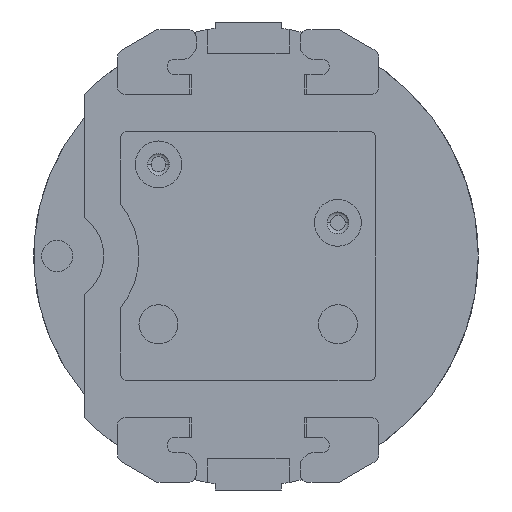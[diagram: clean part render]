
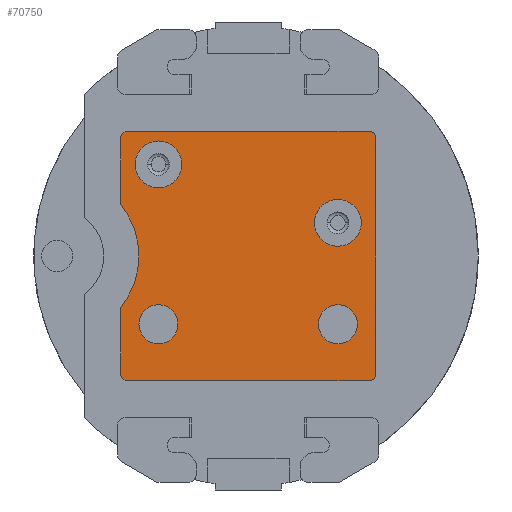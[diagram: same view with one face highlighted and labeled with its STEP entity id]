
A CAD part, front view. The second image highlights one B-rep face of the part: STEP entity #70750.
In plain terms, the highlighted planar face has unit normal (0, -1, 0).
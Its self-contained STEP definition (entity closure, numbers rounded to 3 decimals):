
#27410=CARTESIAN_POINT('',(-2.3,0.08,1.75));
#27420=VERTEX_POINT('',#27410);
#27500=CARTESIAN_POINT('',(-2.3,0.08,2.95));
#27510=VERTEX_POINT('',#27500);
#27540=CARTESIAN_POINT('',(-2.3,0.08,2.35));
#27550=DIRECTION('',(0.,1.,0.));
#27560=DIRECTION('',(0.,0.,1.));
#27570=AXIS2_PLACEMENT_3D('',#27540,#27550,#27560);
#27580=CIRCLE('',#27570,0.6);
#27590=EDGE_CURVE('',#27510,#27420,#27580,.T.);
#29220=CARTESIAN_POINT('',(2.3,0.08,-1.25));
#29230=VERTEX_POINT('',#29220);
#29260=CARTESIAN_POINT('',(2.3,0.08,-1.75));
#29270=DIRECTION('',(0.,1.,0.));
#29280=DIRECTION('',(0.,0.,-1.));
#29290=AXIS2_PLACEMENT_3D('',#29260,#29270,#29280);
#29300=CIRCLE('',#29290,0.5);
#29310=CARTESIAN_POINT('',(2.3,0.08,-2.25));
#29320=VERTEX_POINT('',#29310);
#29330=EDGE_CURVE('',#29230,#29320,#29300,.T.);
#30450=CARTESIAN_POINT('',(-3.27,0.08,-3.03));
#30460=VERTEX_POINT('',#30450);
#30490=CARTESIAN_POINT('',(-3.1,0.08,-3.03));
#30500=DIRECTION('',(-0.,-1.,-0.));
#30510=DIRECTION('',(-1.,0.,0.));
#30520=AXIS2_PLACEMENT_3D('',#30490,#30500,#30510);
#30530=CIRCLE('',#30520,0.17);
#30540=CARTESIAN_POINT('',(-3.1,0.08,-3.2));
#30550=VERTEX_POINT('',#30540);
#30560=EDGE_CURVE('',#30460,#30550,#30530,.T.);
#31970=CARTESIAN_POINT('',(2.3,0.08,1.45));
#31980=VERTEX_POINT('',#31970);
#32060=CARTESIAN_POINT('',(2.3,0.08,0.25));
#32070=VERTEX_POINT('',#32060);
#32100=CARTESIAN_POINT('',(2.3,0.08,0.85));
#32110=DIRECTION('',(0.,1.,0.));
#32120=DIRECTION('',(0.,0.,1.));
#32130=AXIS2_PLACEMENT_3D('',#32100,#32110,#32120);
#32140=CIRCLE('',#32130,0.6);
#32150=EDGE_CURVE('',#32070,#31980,#32140,.T.);
#36290=CARTESIAN_POINT('',(-2.3,0.08,-2.25));
#36300=VERTEX_POINT('',#36290);
#36330=CARTESIAN_POINT('',(-2.3,0.08,-1.75));
#36340=DIRECTION('',(0.,1.,0.));
#36350=DIRECTION('',(0.,0.,-1.));
#36360=AXIS2_PLACEMENT_3D('',#36330,#36340,#36350);
#36370=CIRCLE('',#36360,0.5);
#36380=CARTESIAN_POINT('',(-2.3,0.08,-1.25));
#36390=VERTEX_POINT('',#36380);
#36400=EDGE_CURVE('',#36300,#36390,#36370,.T.);
#67670=CARTESIAN_POINT('',(-3.27,0.08,-3.03));
#67680=DIRECTION('',(0.,0.,1.));
#67690=VECTOR('',#67680,1.);
#67700=LINE('',#67670,#67690);
#67710=CARTESIAN_POINT('',(-3.27,0.08,-1.324));
#67720=VERTEX_POINT('',#67710);
#67730=EDGE_CURVE('',#30460,#67720,#67700,.T.);
#68020=CARTESIAN_POINT('',(-3.27,0.08,1.324));
#68030=VERTEX_POINT('',#68020);
#68060=CARTESIAN_POINT('',(-4.9,0.08,0.));
#68070=DIRECTION('',(-0.,1.,0.));
#68080=DIRECTION('',(0.776,0.,0.63));
#68090=AXIS2_PLACEMENT_3D('',#68060,#68070,#68080);
#68100=CIRCLE('',#68090,2.1);
#68110=EDGE_CURVE('',#68030,#67720,#68100,.T.);
#68350=CARTESIAN_POINT('',(-3.27,0.08,3.03));
#68360=VERTEX_POINT('',#68350);
#68390=CARTESIAN_POINT('',(-3.27,0.08,1.324));
#68400=DIRECTION('',(0.,0.,1.));
#68410=VECTOR('',#68400,1.);
#68420=LINE('',#68390,#68410);
#68430=EDGE_CURVE('',#68030,#68360,#68420,.T.);
#68650=CARTESIAN_POINT('',(-3.1,0.08,3.2));
#68660=VERTEX_POINT('',#68650);
#68690=CARTESIAN_POINT('',(-3.1,0.08,3.03));
#68700=DIRECTION('',(-0.,-1.,0.));
#68710=DIRECTION('',(0.,0.,1.));
#68720=AXIS2_PLACEMENT_3D('',#68690,#68700,#68710);
#68730=CIRCLE('',#68720,0.17);
#68740=EDGE_CURVE('',#68660,#68360,#68730,.T.);
#68970=CARTESIAN_POINT('',(3.1,0.08,3.2));
#68980=VERTEX_POINT('',#68970);
#69010=CARTESIAN_POINT('',(3.1,0.08,3.2));
#69020=DIRECTION('',(-1.,0.,0.));
#69030=VECTOR('',#69020,1.);
#69040=LINE('',#69010,#69030);
#69050=EDGE_CURVE('',#68980,#68660,#69040,.T.);
#69280=CARTESIAN_POINT('',(3.27,0.08,3.03));
#69290=VERTEX_POINT('',#69280);
#69320=CARTESIAN_POINT('',(3.1,0.08,3.03));
#69330=DIRECTION('',(0.,-1.,0.));
#69340=DIRECTION('',(1.,0.,0.));
#69350=AXIS2_PLACEMENT_3D('',#69320,#69330,#69340);
#69360=CIRCLE('',#69350,0.17);
#69370=EDGE_CURVE('',#69290,#68980,#69360,.T.);
#69600=CARTESIAN_POINT('',(3.27,0.08,-3.03));
#69610=VERTEX_POINT('',#69600);
#69640=CARTESIAN_POINT('',(3.27,0.08,3.03));
#69650=DIRECTION('',(0.,0.,-1.));
#69660=VECTOR('',#69650,1.);
#69670=LINE('',#69640,#69660);
#69680=EDGE_CURVE('',#69290,#69610,#69670,.T.);
#69910=CARTESIAN_POINT('',(3.1,0.08,-3.2));
#69920=VERTEX_POINT('',#69910);
#69950=CARTESIAN_POINT('',(3.1,0.08,-3.03));
#69960=DIRECTION('',(0.,-1.,-0.));
#69970=DIRECTION('',(0.,0.,-1.));
#69980=AXIS2_PLACEMENT_3D('',#69950,#69960,#69970);
#69990=CIRCLE('',#69980,0.17);
#70000=EDGE_CURVE('',#69920,#69610,#69990,.T.);
#70220=CARTESIAN_POINT('',(-3.1,0.08,-3.2));
#70230=DIRECTION('',(1.,0.,0.));
#70240=VECTOR('',#70230,1.);
#70250=LINE('',#70220,#70240);
#70260=EDGE_CURVE('',#30550,#69920,#70250,.T.);
#70380=CARTESIAN_POINT('',(-0.,0.08,-0.));
#70390=DIRECTION('',(-0.,1.,-0.));
#70400=DIRECTION('',(0.,-0.,1.));
#70410=AXIS2_PLACEMENT_3D('',#70380,#70390,#70400);
#70420=PLANE('',#70410);
#70430=ORIENTED_EDGE('',*,*,#68740,.T.);
#70440=ORIENTED_EDGE('',*,*,#69050,.T.);
#70450=ORIENTED_EDGE('',*,*,#69370,.T.);
#70460=ORIENTED_EDGE('',*,*,#69680,.F.);
#70470=ORIENTED_EDGE('',*,*,#70000,.T.);
#70480=ORIENTED_EDGE('',*,*,#70260,.T.);
#70490=ORIENTED_EDGE('',*,*,#30560,.T.);
#70500=ORIENTED_EDGE('',*,*,#67730,.F.);
#70510=ORIENTED_EDGE('',*,*,#68110,.T.);
#70520=ORIENTED_EDGE('',*,*,#68430,.F.);
#70530=EDGE_LOOP('',(#70520,#70510,#70500,#70490,#70480,#70470,#70460,
#70450,#70440,#70430));
#70540=FACE_OUTER_BOUND('',#70530,.T.);
#70550=EDGE_CURVE('',#31980,#32070,#32140,.T.);
#70560=ORIENTED_EDGE('',*,*,#70550,.T.);
#70570=ORIENTED_EDGE('',*,*,#32150,.T.);
#70580=EDGE_LOOP('',(#70570,#70560));
#70590=FACE_BOUND('',#70580,.T.);
#70600=EDGE_CURVE('',#27420,#27510,#27580,.T.);
#70610=ORIENTED_EDGE('',*,*,#70600,.T.);
#70620=ORIENTED_EDGE('',*,*,#27590,.T.);
#70630=EDGE_LOOP('',(#70620,#70610));
#70640=FACE_BOUND('',#70630,.T.);
#70650=EDGE_CURVE('',#29320,#29230,#29300,.T.);
#70660=ORIENTED_EDGE('',*,*,#70650,.T.);
#70670=ORIENTED_EDGE('',*,*,#29330,.T.);
#70680=EDGE_LOOP('',(#70670,#70660));
#70690=FACE_BOUND('',#70680,.T.);
#70700=EDGE_CURVE('',#36390,#36300,#36370,.T.);
#70710=ORIENTED_EDGE('',*,*,#70700,.T.);
#70720=ORIENTED_EDGE('',*,*,#36400,.T.);
#70730=EDGE_LOOP('',(#70720,#70710));
#70740=FACE_BOUND('',#70730,.T.);
#70750=ADVANCED_FACE('',(#70540,#70590,#70640,#70690,#70740),#70420,.F.)
;
